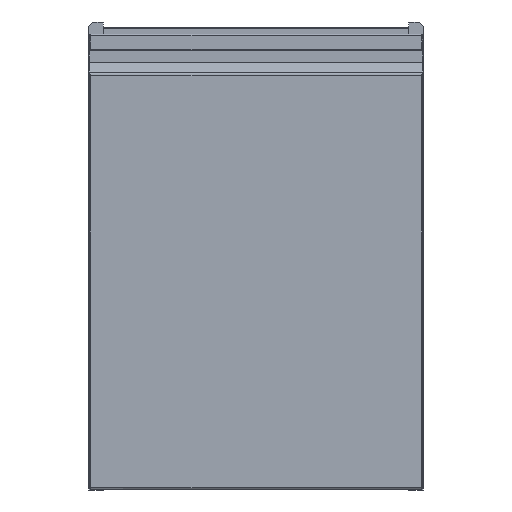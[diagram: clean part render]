
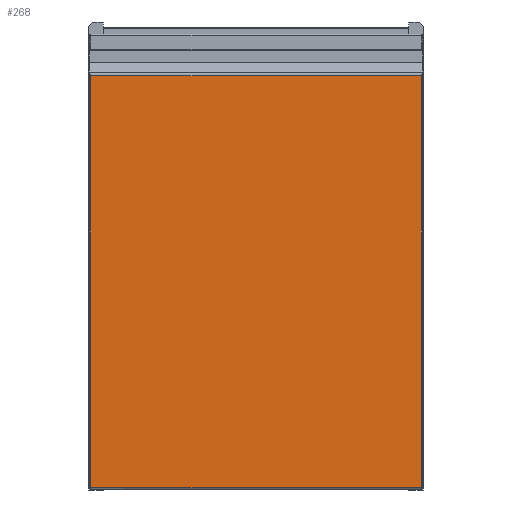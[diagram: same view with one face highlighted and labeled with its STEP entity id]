
A CAD part, front view. The second image highlights one B-rep face of the part: STEP entity #268.
In plain terms, the highlighted planar face has unit normal (0, -1, 0).
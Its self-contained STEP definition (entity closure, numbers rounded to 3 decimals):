
#268=ADVANCED_FACE('',(#346),#1235,.T.);
#346=FACE_OUTER_BOUND('',#424,.T.);
#424=EDGE_LOOP('',(#752,#753,#754,#755));
#752=ORIENTED_EDGE('',*,*,#936,.F.);
#753=ORIENTED_EDGE('',*,*,#914,.F.);
#754=ORIENTED_EDGE('',*,*,#881,.F.);
#755=ORIENTED_EDGE('',*,*,#941,.F.);
#881=EDGE_CURVE('',#1162,#1163,#1039,.T.);
#914=EDGE_CURVE('',#1163,#1178,#1061,.T.);
#936=EDGE_CURVE('',#1178,#1189,#1077,.T.);
#941=EDGE_CURVE('',#1189,#1162,#1079,.T.);
#1039=B_SPLINE_CURVE_WITH_KNOTS('',1,(#3651,#3652),.UNSPECIFIED.,.F.,.F.,
(2,2),(0.,510.515),.UNSPECIFIED.);
#1061=B_SPLINE_CURVE_WITH_KNOTS('',1,(#3978,#3979),.UNSPECIFIED.,.F.,.F.,
(2,2),(0.,409.016),.UNSPECIFIED.);
#1077=B_SPLINE_CURVE_WITH_KNOTS('',1,(#4098,#4099),.UNSPECIFIED.,.F.,.F.,
(2,2),(-510.515,0.),.UNSPECIFIED.);
#1079=B_SPLINE_CURVE_WITH_KNOTS('',1,(#4117,#4118),.UNSPECIFIED.,.F.,.F.,
(2,2),(-409.016,0.),.UNSPECIFIED.);
#1162=VERTEX_POINT('',#3509);
#1163=VERTEX_POINT('',#3510);
#1178=VERTEX_POINT('',#3525);
#1189=VERTEX_POINT('',#3536);
#1235=PLANE('',#1462);
#1462=AXIS2_PLACEMENT_3D('',#3468,#1552,$);
#1552=DIRECTION('',(0.,-1.,0.));
#3468=CARTESIAN_POINT('',(-2756.812,-5887.785,564.686));
#3509=CARTESIAN_POINT('',(-3206.85,-5887.785,3.));
#3510=CARTESIAN_POINT('',(-3206.85,-5887.785,513.515));
#3525=CARTESIAN_POINT('',(-2797.833,-5887.785,513.515));
#3536=CARTESIAN_POINT('',(-2797.833,-5887.785,3.));
#3651=CARTESIAN_POINT('',(-3206.85,-5887.785,3.));
#3652=CARTESIAN_POINT('',(-3206.85,-5887.785,513.515));
#3978=CARTESIAN_POINT('',(-3206.85,-5887.785,513.515));
#3979=CARTESIAN_POINT('',(-2797.833,-5887.785,513.515));
#4098=CARTESIAN_POINT('',(-2797.833,-5887.785,513.515));
#4099=CARTESIAN_POINT('',(-2797.833,-5887.785,3.));
#4117=CARTESIAN_POINT('',(-2797.833,-5887.785,3.));
#4118=CARTESIAN_POINT('',(-3206.85,-5887.785,3.));
